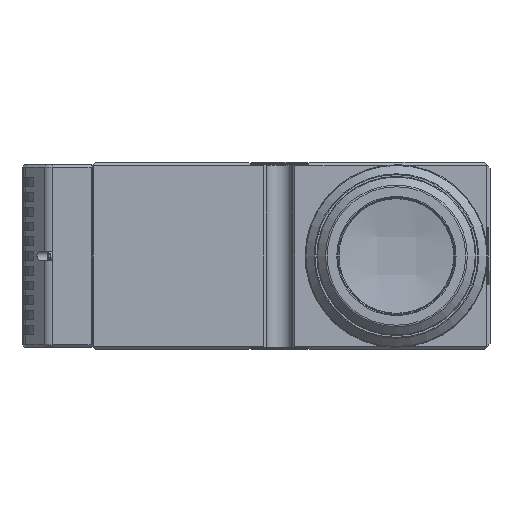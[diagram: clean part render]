
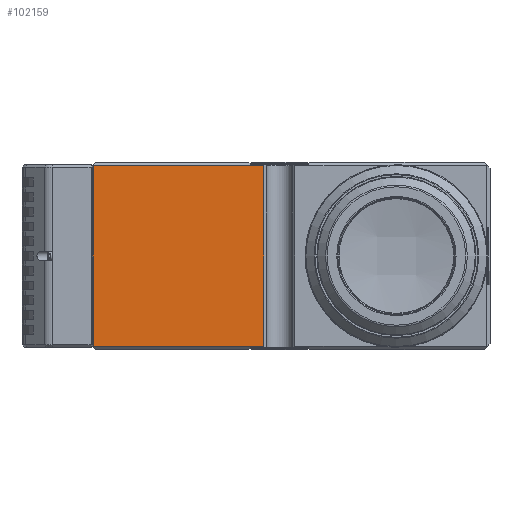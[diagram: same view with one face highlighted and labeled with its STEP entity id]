
A CAD part, front view. The second image highlights one B-rep face of the part: STEP entity #102159.
In plain terms, the highlighted planar face has unit normal (0, -1, 0).
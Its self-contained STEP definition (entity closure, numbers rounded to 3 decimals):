
#1534 = EDGE_LOOP ( 'NONE', ( #33710, #156292, #149348, #144361 ) ) ;
#4710 = VECTOR ( 'NONE', #110113, 1000. ) ;
#9938 = LINE ( 'NONE', #50252, #99078 ) ;
#10424 = DIRECTION ( 'NONE',  ( 0., 0., 1. ) ) ;
#16000 = CARTESIAN_POINT ( 'NONE',  ( -38.935, -45., -38.5 ) ) ;
#17125 = DIRECTION ( 'NONE',  ( 1., 0., 0. ) ) ;
#18541 = VECTOR ( 'NONE', #163364, 1000. ) ;
#25652 = FACE_OUTER_BOUND ( 'NONE', #1534, .T. ) ;
#30634 = CARTESIAN_POINT ( 'NONE',  ( -38.935, -45., 40. ) ) ;
#33710 = ORIENTED_EDGE ( 'NONE', *, *, #140129, .T. ) ;
#44626 = AXIS2_PLACEMENT_3D ( 'NONE', #56595, #156121, #17125 ) ;
#45124 = VERTEX_POINT ( 'NONE', #87261 ) ;
#48235 = LINE ( 'NONE', #98433, #97535 ) ;
#50252 = CARTESIAN_POINT ( 'NONE',  ( 134.808, -45., 38.5 ) ) ;
#55538 = CARTESIAN_POINT ( 'NONE',  ( 134.808, -45., -38.5 ) ) ;
#56595 = CARTESIAN_POINT ( 'NONE',  ( 130.565, -45., -40. ) ) ;
#68136 = LINE ( 'NONE', #55538, #18541 ) ;
#69613 = VERTEX_POINT ( 'NONE', #16000 ) ;
#71759 = EDGE_CURVE ( 'NONE', #105693, #69613, #68136, .T. ) ;
#76834 = PLANE ( 'NONE',  #44626 ) ;
#80058 = EDGE_CURVE ( 'NONE', #105693, #45124, #48235, .T. ) ;
#87261 = CARTESIAN_POINT ( 'NONE',  ( 33.965, -45., 38.5 ) ) ;
#87947 = DIRECTION ( 'NONE',  ( -1., 0., 0. ) ) ;
#97535 = VECTOR ( 'NONE', #10424, 1000. ) ;
#98214 = CARTESIAN_POINT ( 'NONE',  ( -38.935, -45., 38.5 ) ) ;
#98433 = CARTESIAN_POINT ( 'NONE',  ( 33.965, -45., -40. ) ) ;
#99078 = VECTOR ( 'NONE', #87947, 1000. ) ;
#102159 = ADVANCED_FACE ( 'NONE', ( #25652 ), #76834, .T. ) ;
#105693 = VERTEX_POINT ( 'NONE', #162290 ) ;
#110113 = DIRECTION ( 'NONE',  ( 0., 0., -1. ) ) ;
#131003 = VERTEX_POINT ( 'NONE', #98214 ) ;
#136679 = EDGE_CURVE ( 'NONE', #131003, #69613, #146077, .T. ) ;
#140129 = EDGE_CURVE ( 'NONE', #45124, #131003, #9938, .T. ) ;
#144361 = ORIENTED_EDGE ( 'NONE', *, *, #80058, .T. ) ;
#146077 = LINE ( 'NONE', #30634, #4710 ) ;
#149348 = ORIENTED_EDGE ( 'NONE', *, *, #71759, .F. ) ;
#156121 = DIRECTION ( 'NONE',  ( 0., -1., 0. ) ) ;
#156292 = ORIENTED_EDGE ( 'NONE', *, *, #136679, .T. ) ;
#162290 = CARTESIAN_POINT ( 'NONE',  ( 33.965, -45., -38.5 ) ) ;
#163364 = DIRECTION ( 'NONE',  ( -1., 0., 0. ) ) ;
